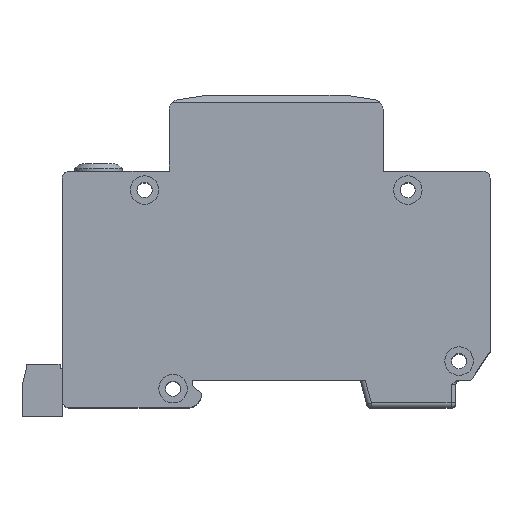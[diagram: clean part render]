
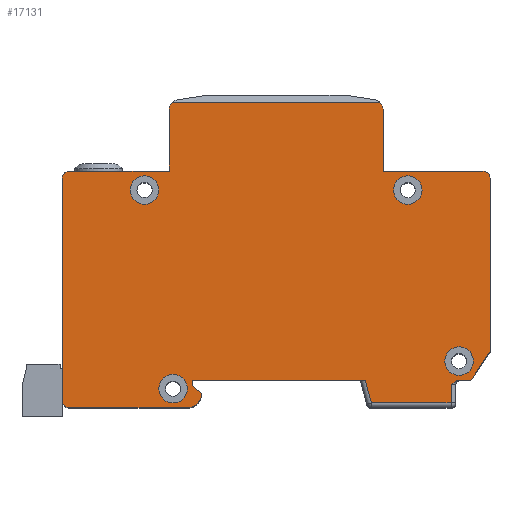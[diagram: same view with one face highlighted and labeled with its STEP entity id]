
A CAD part, top view. The second image highlights one B-rep face of the part: STEP entity #17131.
In plain terms, the highlighted planar face has unit normal (0, 0, 1).
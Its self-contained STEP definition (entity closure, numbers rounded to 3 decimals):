
#186=B_SPLINE_CURVE_WITH_KNOTS('',3,(#27241,#27242,#27243,#27244,#27245,
#27246),.UNSPECIFIED.,.F.,.F.,(4,2,4),(0.506,0.582,
0.7),.UNSPECIFIED.);
#256=FACE_BOUND('',#2512,.T.);
#257=FACE_BOUND('',#2513,.T.);
#258=FACE_BOUND('',#2514,.T.);
#259=FACE_BOUND('',#2515,.T.);
#549=CIRCLE('',#18407,1.5);
#551=CIRCLE('',#18438,1.5);
#553=CIRCLE('',#18444,3.);
#563=CIRCLE('',#18502,1.5);
#582=CIRCLE('',#18538,2.);
#583=CIRCLE('',#18539,2.);
#584=CIRCLE('',#18540,3.);
#585=CIRCLE('',#18541,3.);
#586=CIRCLE('',#18542,3.);
#587=CIRCLE('',#18543,3.);
#1521=FACE_OUTER_BOUND('',#2511,.T.);
#2511=EDGE_LOOP('',(#14105,#14106,#14107,#14108,#14109,#14110,#14111,#14112,
#14113,#14114,#14115,#14116,#14117,#14118,#14119,#14120,#14121,#14122,#14123,
#14124,#14125,#14126,#14127));
#2512=EDGE_LOOP('',(#14128));
#2513=EDGE_LOOP('',(#14129));
#2514=EDGE_LOOP('',(#14130));
#2515=EDGE_LOOP('',(#14131));
#3830=LINE('',#26230,#5825);
#4146=LINE('',#26919,#6141);
#4164=LINE('',#26956,#6159);
#4170=LINE('',#26972,#6165);
#4174=LINE('',#26980,#6169);
#4178=LINE('',#26992,#6173);
#4200=LINE('',#27051,#6195);
#4204=LINE('',#27060,#6199);
#4256=LINE('',#27160,#6251);
#4262=LINE('',#27178,#6257);
#4267=LINE('',#27227,#6262);
#4268=LINE('',#27231,#6263);
#4269=LINE('',#27234,#6264);
#4270=LINE('',#27236,#6265);
#4271=LINE('',#27238,#6266);
#4272=LINE('',#27240,#6267);
#5825=VECTOR('',#21320,10.);
#6141=VECTOR('',#21872,10.);
#6159=VECTOR('',#21912,10.);
#6165=VECTOR('',#21930,10.);
#6169=VECTOR('',#21938,10.);
#6173=VECTOR('',#21950,10.);
#6195=VECTOR('',#22014,10.);
#6199=VECTOR('',#22024,10.);
#6251=VECTOR('',#22120,10.);
#6257=VECTOR('',#22142,10.);
#6262=VECTOR('',#22209,10.);
#6263=VECTOR('',#22212,10.);
#6264=VECTOR('',#22215,10.);
#6265=VECTOR('',#22216,10.);
#6266=VECTOR('',#22217,10.);
#6267=VECTOR('',#22218,10.);
#7611=VERTEX_POINT('',#26227);
#7612=VERTEX_POINT('',#26229);
#7837=VERTEX_POINT('',#26809);
#7867=VERTEX_POINT('',#26917);
#7873=VERTEX_POINT('',#26946);
#7875=VERTEX_POINT('',#26954);
#7877=VERTEX_POINT('',#26962);
#7879=VERTEX_POINT('',#26970);
#7881=VERTEX_POINT('',#26978);
#7885=VERTEX_POINT('',#26990);
#7900=VERTEX_POINT('',#27048);
#7901=VERTEX_POINT('',#27050);
#7903=VERTEX_POINT('',#27058);
#7929=VERTEX_POINT('',#27158);
#7931=VERTEX_POINT('',#27166);
#7933=VERTEX_POINT('',#27176);
#7946=VERTEX_POINT('',#27226);
#7947=VERTEX_POINT('',#27228);
#7948=VERTEX_POINT('',#27230);
#7949=VERTEX_POINT('',#27232);
#7950=VERTEX_POINT('',#27235);
#7951=VERTEX_POINT('',#27237);
#7952=VERTEX_POINT('',#27239);
#7953=VERTEX_POINT('',#27247);
#7954=VERTEX_POINT('',#27249);
#7955=VERTEX_POINT('',#27251);
#7956=VERTEX_POINT('',#27253);
#9608=EDGE_CURVE('',#7612,#7611,#3830,.T.);
#9898=EDGE_CURVE('',#7837,#7611,#549,.T.);
#9954=EDGE_CURVE('',#7837,#7867,#4146,.T.);
#9970=EDGE_CURVE('',#7873,#7867,#551,.T.);
#9974=EDGE_CURVE('',#7873,#7875,#4164,.T.);
#9978=EDGE_CURVE('',#7875,#7877,#553,.T.);
#9982=EDGE_CURVE('',#7877,#7879,#4170,.T.);
#9986=EDGE_CURVE('',#7879,#7881,#4174,.T.);
#9992=EDGE_CURVE('',#7881,#7885,#4178,.T.);
#10021=EDGE_CURVE('',#7900,#7901,#4200,.T.);
#10026=EDGE_CURVE('',#7900,#7903,#4204,.T.);
#10078=EDGE_CURVE('',#7903,#7929,#4256,.T.);
#10082=EDGE_CURVE('',#7931,#7929,#563,.T.);
#10088=EDGE_CURVE('',#7931,#7933,#4262,.T.);
#10109=EDGE_CURVE('',#7933,#7946,#4267,.T.);
#10110=EDGE_CURVE('',#7947,#7946,#582,.T.);
#10111=EDGE_CURVE('',#7948,#7947,#4268,.T.);
#10112=EDGE_CURVE('',#7949,#7948,#583,.T.);
#10113=EDGE_CURVE('',#7949,#7612,#4269,.T.);
#10114=EDGE_CURVE('',#7950,#7885,#4270,.T.);
#10115=EDGE_CURVE('',#7951,#7950,#4271,.T.);
#10116=EDGE_CURVE('',#7952,#7951,#4272,.T.);
#10117=EDGE_CURVE('',#7901,#7952,#186,.T.);
#10118=EDGE_CURVE('',#7953,#7953,#584,.T.);
#10119=EDGE_CURVE('',#7954,#7954,#585,.T.);
#10120=EDGE_CURVE('',#7955,#7955,#586,.T.);
#10121=EDGE_CURVE('',#7956,#7956,#587,.T.);
#14105=ORIENTED_EDGE('',*,*,#10082,.F.);
#14106=ORIENTED_EDGE('',*,*,#10088,.T.);
#14107=ORIENTED_EDGE('',*,*,#10109,.T.);
#14108=ORIENTED_EDGE('',*,*,#10110,.F.);
#14109=ORIENTED_EDGE('',*,*,#10111,.F.);
#14110=ORIENTED_EDGE('',*,*,#10112,.F.);
#14111=ORIENTED_EDGE('',*,*,#10113,.T.);
#14112=ORIENTED_EDGE('',*,*,#9608,.T.);
#14113=ORIENTED_EDGE('',*,*,#9898,.F.);
#14114=ORIENTED_EDGE('',*,*,#9954,.T.);
#14115=ORIENTED_EDGE('',*,*,#9970,.F.);
#14116=ORIENTED_EDGE('',*,*,#9974,.T.);
#14117=ORIENTED_EDGE('',*,*,#9978,.T.);
#14118=ORIENTED_EDGE('',*,*,#9982,.T.);
#14119=ORIENTED_EDGE('',*,*,#9986,.T.);
#14120=ORIENTED_EDGE('',*,*,#9992,.T.);
#14121=ORIENTED_EDGE('',*,*,#10114,.F.);
#14122=ORIENTED_EDGE('',*,*,#10115,.F.);
#14123=ORIENTED_EDGE('',*,*,#10116,.F.);
#14124=ORIENTED_EDGE('',*,*,#10117,.F.);
#14125=ORIENTED_EDGE('',*,*,#10021,.F.);
#14126=ORIENTED_EDGE('',*,*,#10026,.T.);
#14127=ORIENTED_EDGE('',*,*,#10078,.T.);
#14128=ORIENTED_EDGE('',*,*,#10118,.T.);
#14129=ORIENTED_EDGE('',*,*,#10119,.T.);
#14130=ORIENTED_EDGE('',*,*,#10120,.T.);
#14131=ORIENTED_EDGE('',*,*,#10121,.T.);
#16293=PLANE('',#18537);
#17131=ADVANCED_FACE('',(#1521,#256,#257,#258,#259),#16293,.T.);
#18407=AXIS2_PLACEMENT_3D('',#26811,#21771,#21772);
#18438=AXIS2_PLACEMENT_3D('',#26948,#21903,#21904);
#18444=AXIS2_PLACEMENT_3D('',#26964,#21921,#21922);
#18502=AXIS2_PLACEMENT_3D('',#27168,#22129,#22130);
#18537=AXIS2_PLACEMENT_3D('',#27225,#22207,#22208);
#18538=AXIS2_PLACEMENT_3D('',#27229,#22210,#22211);
#18539=AXIS2_PLACEMENT_3D('',#27233,#22213,#22214);
#18540=AXIS2_PLACEMENT_3D('',#27248,#22219,#22220);
#18541=AXIS2_PLACEMENT_3D('',#27250,#22221,#22222);
#18542=AXIS2_PLACEMENT_3D('',#27252,#22223,#22224);
#18543=AXIS2_PLACEMENT_3D('',#27254,#22225,#22226);
#21320=DIRECTION('',(-1.,0.,0.));
#21771=DIRECTION('center_axis',(0.,0.,-1.));
#21772=DIRECTION('ref_axis',(-0.707,0.707,0.));
#21872=DIRECTION('',(0.,-1.,0.));
#21903=DIRECTION('center_axis',(0.,0.,-1.));
#21904=DIRECTION('ref_axis',(-0.707,-0.707,0.));
#21912=DIRECTION('',(1.,0.,0.));
#21921=DIRECTION('center_axis',(0.,0.,1.));
#21922=DIRECTION('ref_axis',(0.,-1.,0.));
#21930=DIRECTION('',(-0.781,0.625,0.));
#21938=DIRECTION('',(0.,1.,0.));
#21950=DIRECTION('',(1.,0.,0.));
#22014=DIRECTION('',(-1.,0.,0.));
#22024=DIRECTION('',(0.555,0.832,0.));
#22120=DIRECTION('',(0.,1.,0.));
#22129=DIRECTION('center_axis',(0.,0.,-1.));
#22130=DIRECTION('ref_axis',(0.707,0.707,0.));
#22142=DIRECTION('',(-1.,0.,0.));
#22207=DIRECTION('center_axis',(0.,0.,1.));
#22208=DIRECTION('ref_axis',(1.,0.,0.));
#22209=DIRECTION('',(0.,1.,0.));
#22210=DIRECTION('center_axis',(0.,0.,-1.));
#22211=DIRECTION('ref_axis',(0.762,0.648,0.));
#22212=DIRECTION('',(1.,0.,0.));
#22213=DIRECTION('center_axis',(0.,0.,-1.));
#22214=DIRECTION('ref_axis',(-0.762,0.648,0.));
#22215=DIRECTION('',(0.,-1.,0.));
#22216=DIRECTION('',(-0.259,0.966,0.));
#22217=DIRECTION('',(-1.,0.,0.));
#22218=DIRECTION('',(0.,-1.,0.));
#22219=DIRECTION('center_axis',(0.,0.,-1.));
#22220=DIRECTION('ref_axis',(1.,0.,0.));
#22221=DIRECTION('center_axis',(0.,0.,-1.));
#22222=DIRECTION('ref_axis',(1.,0.,0.));
#22223=DIRECTION('center_axis',(0.,0.,-1.));
#22224=DIRECTION('ref_axis',(1.,0.,0.));
#22225=DIRECTION('center_axis',(0.,0.,-1.));
#22226=DIRECTION('ref_axis',(1.,0.,0.));
#26227=CARTESIAN_POINT('',(-43.5,14.,17.5));
#26229=CARTESIAN_POINT('',(-22.5,14.,17.5));
#26230=CARTESIAN_POINT('',(-22.5,14.,17.5));
#26809=CARTESIAN_POINT('',(-45.,12.5,17.5));
#26811=CARTESIAN_POINT('Origin',(-43.5,12.5,17.5));
#26917=CARTESIAN_POINT('',(-45.,-34.3,17.5));
#26919=CARTESIAN_POINT('',(-45.,14.,17.5));
#26946=CARTESIAN_POINT('',(-43.5,-35.8,17.5));
#26948=CARTESIAN_POINT('Origin',(-43.5,-34.3,17.5));
#26954=CARTESIAN_POINT('',(-18.7,-35.8,17.5));
#26956=CARTESIAN_POINT('',(-45.,-35.8,17.5));
#26962=CARTESIAN_POINT('',(-15.7,-32.8,17.5));
#26964=CARTESIAN_POINT('Origin',(-18.7,-32.8,17.5));
#26970=CARTESIAN_POINT('',(-17.7,-31.2,17.5));
#26972=CARTESIAN_POINT('',(-15.7,-32.8,17.5));
#26978=CARTESIAN_POINT('',(-17.7,-30.,17.5));
#26980=CARTESIAN_POINT('',(-17.7,-31.2,17.5));
#26990=CARTESIAN_POINT('',(18.735,-30.,17.5));
#26992=CARTESIAN_POINT('',(-17.7,-30.,17.5));
#27048=CARTESIAN_POINT('',(41.,-30.,17.5));
#27050=CARTESIAN_POINT('',(38.532,-30.,17.5));
#27051=CARTESIAN_POINT('',(18.592,-30.,17.5));
#27058=CARTESIAN_POINT('',(45.,-24.,17.5));
#27060=CARTESIAN_POINT('',(41.,-30.,17.5));
#27158=CARTESIAN_POINT('',(45.,12.5,17.5));
#27160=CARTESIAN_POINT('',(45.,-24.,17.5));
#27166=CARTESIAN_POINT('',(43.5,14.,17.5));
#27168=CARTESIAN_POINT('Origin',(43.5,12.5,17.5));
#27176=CARTESIAN_POINT('',(22.5,14.,17.5));
#27178=CARTESIAN_POINT('',(45.,14.,17.5));
#27225=CARTESIAN_POINT('Origin',(-0.615,-5.122,17.5));
#27226=CARTESIAN_POINT('',(22.5,26.999,17.5));
#27227=CARTESIAN_POINT('',(22.5,14.,17.5));
#27228=CARTESIAN_POINT('',(21.821,28.5,17.5));
#27229=CARTESIAN_POINT('Origin',(20.5,26.999,17.5));
#27230=CARTESIAN_POINT('',(-21.821,28.5,17.5));
#27231=CARTESIAN_POINT('',(10.942,28.5,17.5));
#27232=CARTESIAN_POINT('',(-22.5,26.999,17.5));
#27233=CARTESIAN_POINT('Origin',(-20.5,26.999,17.5));
#27234=CARTESIAN_POINT('',(-22.5,30.,17.5));
#27235=CARTESIAN_POINT('',(20.021,-34.8,17.5));
#27236=CARTESIAN_POINT('',(14.943,-15.846,17.5));
#27237=CARTESIAN_POINT('',(36.8,-34.8,17.5));
#27238=CARTESIAN_POINT('',(9.319,-34.8,17.5));
#27239=CARTESIAN_POINT('',(36.8,-31.,17.5));
#27240=CARTESIAN_POINT('',(36.8,-20.461,17.5));
#27241=CARTESIAN_POINT('Ctrl Pts',(38.532,-30.,17.5));
#27242=CARTESIAN_POINT('Ctrl Pts',(38.277,-30.,17.5));
#27243=CARTESIAN_POINT('Ctrl Pts',(37.985,-30.09,17.5));
#27244=CARTESIAN_POINT('Ctrl Pts',(37.415,-30.396,17.5));
#27245=CARTESIAN_POINT('Ctrl Pts',(37.077,-30.723,17.5));
#27246=CARTESIAN_POINT('Ctrl Pts',(36.8,-31.,17.5));
#27247=CARTESIAN_POINT('',(35.5,-26.,17.5));
#27248=CARTESIAN_POINT('Origin',(38.5,-26.,17.5));
#27249=CARTESIAN_POINT('',(24.7,10.,17.5));
#27250=CARTESIAN_POINT('Origin',(27.7,10.,17.5));
#27251=CARTESIAN_POINT('',(-30.7,10.,17.5));
#27252=CARTESIAN_POINT('Origin',(-27.7,10.,17.5));
#27253=CARTESIAN_POINT('',(-24.7,-31.8,17.5));
#27254=CARTESIAN_POINT('Origin',(-21.7,-31.8,17.5));
